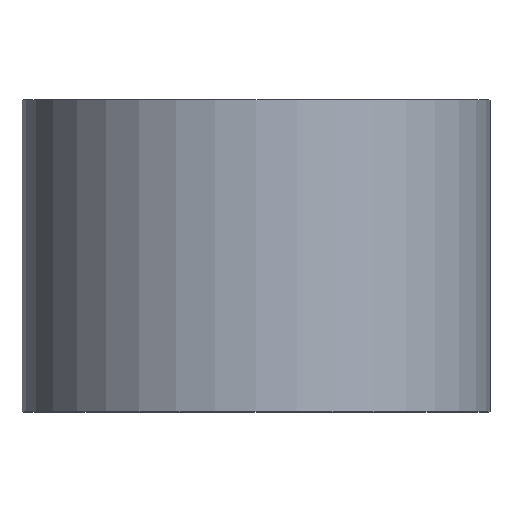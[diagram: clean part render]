
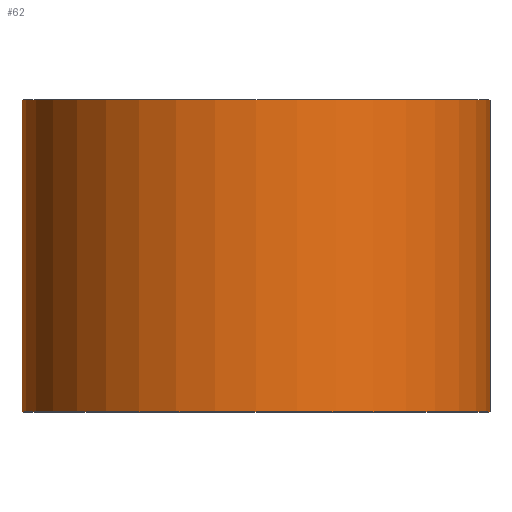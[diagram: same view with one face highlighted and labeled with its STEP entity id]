
A CAD part, top view. The second image highlights one B-rep face of the part: STEP entity #62.
In plain terms, the highlighted cylindrical face has radius 9 mm (diameter 18 mm), a partial arc.
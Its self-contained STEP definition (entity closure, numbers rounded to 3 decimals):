
#7 = AXIS2_PLACEMENT_3D ( 'NONE', #49, #209, #120 ) ;
#19 = LINE ( 'NONE', #235, #83 ) ;
#24 = DIRECTION ( 'NONE',  ( 0., 1., 0. ) ) ;
#43 = AXIS2_PLACEMENT_3D ( 'NONE', #298, #24, #52 ) ;
#47 = EDGE_CURVE ( 'NONE', #138, #98, #103, .T. ) ;
#48 = DIRECTION ( 'NONE',  ( 0., 1., 0. ) ) ;
#49 = CARTESIAN_POINT ( 'NONE',  ( 0., 12., 0. ) ) ;
#51 = CARTESIAN_POINT ( 'NONE',  ( 9., 12., 0. ) ) ;
#52 = DIRECTION ( 'NONE',  ( -1., 0., 0. ) ) ;
#62 = ADVANCED_FACE ( 'NONE', ( #215 ), #89, .T. ) ;
#69 = EDGE_CURVE ( 'NONE', #259, #98, #234, .T. ) ;
#73 = AXIS2_PLACEMENT_3D ( 'NONE', #128, #144, #281 ) ;
#82 = CARTESIAN_POINT ( 'NONE',  ( -9., 0., 0. ) ) ;
#83 = VECTOR ( 'NONE', #104, 1000. ) ;
#89 = CYLINDRICAL_SURFACE ( 'NONE', #43, 9. ) ;
#98 = VERTEX_POINT ( 'NONE', #51 ) ;
#103 = LINE ( 'NONE', #140, #189 ) ;
#104 = DIRECTION ( 'NONE',  ( 0., 1., 0. ) ) ;
#120 = DIRECTION ( 'NONE',  ( -1., 0., 0. ) ) ;
#127 = CARTESIAN_POINT ( 'NONE',  ( 9., 0., 0. ) ) ;
#128 = CARTESIAN_POINT ( 'NONE',  ( 0., 0., 0. ) ) ;
#136 = EDGE_LOOP ( 'NONE', ( #200, #278, #244, #263 ) ) ;
#138 = VERTEX_POINT ( 'NONE', #127 ) ;
#140 = CARTESIAN_POINT ( 'NONE',  ( 9., 0., 0. ) ) ;
#144 = DIRECTION ( 'NONE',  ( 0., 1., 0. ) ) ;
#189 = VECTOR ( 'NONE', #48, 1000. ) ;
#197 = CARTESIAN_POINT ( 'NONE',  ( -9., 12., 0. ) ) ;
#200 = ORIENTED_EDGE ( 'NONE', *, *, #292, .T. ) ;
#209 = DIRECTION ( 'NONE',  ( 0., 1., 0. ) ) ;
#215 = FACE_OUTER_BOUND ( 'NONE', #136, .T. ) ;
#234 = CIRCLE ( 'NONE', #7, 9. ) ;
#235 = CARTESIAN_POINT ( 'NONE',  ( -9., 0., 0. ) ) ;
#244 = ORIENTED_EDGE ( 'NONE', *, *, #69, .F. ) ;
#245 = CIRCLE ( 'NONE', #73, 9. ) ;
#259 = VERTEX_POINT ( 'NONE', #197 ) ;
#263 = ORIENTED_EDGE ( 'NONE', *, *, #271, .F. ) ;
#271 = EDGE_CURVE ( 'NONE', #301, #259, #19, .T. ) ;
#278 = ORIENTED_EDGE ( 'NONE', *, *, #47, .T. ) ;
#281 = DIRECTION ( 'NONE',  ( -1., 0., 0. ) ) ;
#292 = EDGE_CURVE ( 'NONE', #301, #138, #245, .T. ) ;
#298 = CARTESIAN_POINT ( 'NONE',  ( 0., 0., 0. ) ) ;
#301 = VERTEX_POINT ( 'NONE', #82 ) ;
